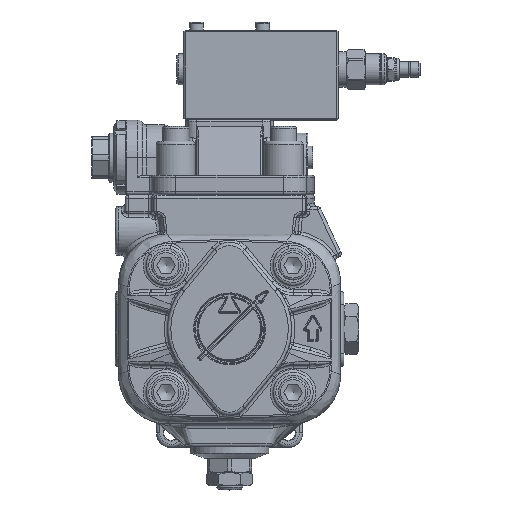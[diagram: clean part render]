
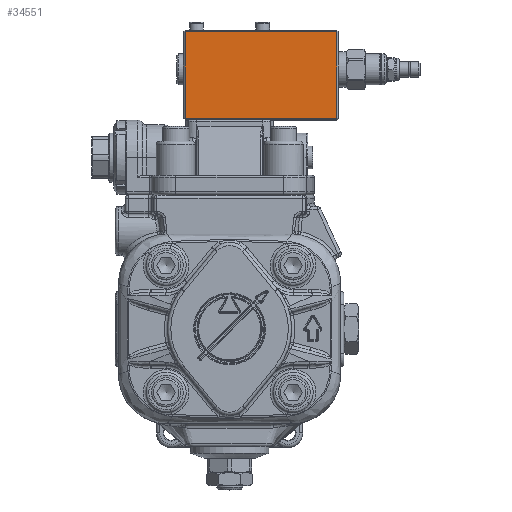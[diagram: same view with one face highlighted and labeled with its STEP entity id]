
A CAD part, top view. The second image highlights one B-rep face of the part: STEP entity #34551.
In plain terms, the highlighted planar face has unit normal (0, 0, 1).
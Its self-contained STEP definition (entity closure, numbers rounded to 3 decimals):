
#2718=LINE('',#51485,#4583);
#2720=LINE('',#51489,#4585);
#2723=LINE('',#51493,#4588);
#2729=LINE('',#51504,#4594);
#4583=VECTOR('',#41414,10.);
#4585=VECTOR('',#41420,10.);
#4588=VECTOR('',#41425,10.);
#4594=VECTOR('',#41441,10.);
#6341=PLANE('',#36911);
#7145=FACE_OUTER_BOUND('',#9267,.T.);
#9267=EDGE_LOOP('',(#22814,#22815,#22816,#22817));
#13733=VERTEX_POINT('',#51457);
#13734=VERTEX_POINT('',#51461);
#13739=VERTEX_POINT('',#51475);
#13741=VERTEX_POINT('',#51480);
#17103=EDGE_CURVE('',#13741,#13739,#2718,.T.);
#17105=EDGE_CURVE('',#13734,#13741,#2720,.T.);
#17108=EDGE_CURVE('',#13739,#13733,#2723,.T.);
#17114=EDGE_CURVE('',#13733,#13734,#2729,.T.);
#22814=ORIENTED_EDGE('',*,*,#17103,.F.);
#22815=ORIENTED_EDGE('',*,*,#17105,.F.);
#22816=ORIENTED_EDGE('',*,*,#17114,.F.);
#22817=ORIENTED_EDGE('',*,*,#17108,.F.);
#34551=ADVANCED_FACE('',(#7145),#6341,.T.);
#36911=AXIS2_PLACEMENT_3D('',#51514,#41454,#41455);
#41414=DIRECTION('',(1.,0.,0.));
#41420=DIRECTION('',(0.,1.,0.));
#41425=DIRECTION('',(0.,-1.,0.));
#41441=DIRECTION('',(-1.,0.,0.));
#41454=DIRECTION('center_axis',(0.,0.,
1.));
#41455=DIRECTION('ref_axis',(0.,1.,0.));
#51457=CARTESIAN_POINT('',(59.21,116.996,41.252));
#51461=CARTESIAN_POINT('',(-33.79,116.996,41.252));
#51475=CARTESIAN_POINT('',(59.21,169.996,41.252));
#51480=CARTESIAN_POINT('',(-33.79,169.996,41.252));
#51485=CARTESIAN_POINT('',(-11.04,169.996,41.252));
#51489=CARTESIAN_POINT('',(-33.79,170.996,41.252));
#51493=CARTESIAN_POINT('',(59.21,170.996,41.252));
#51504=CARTESIAN_POINT('',(-11.04,116.996,41.252));
#51514=CARTESIAN_POINT('Origin',(-34.79,170.996,41.252));
